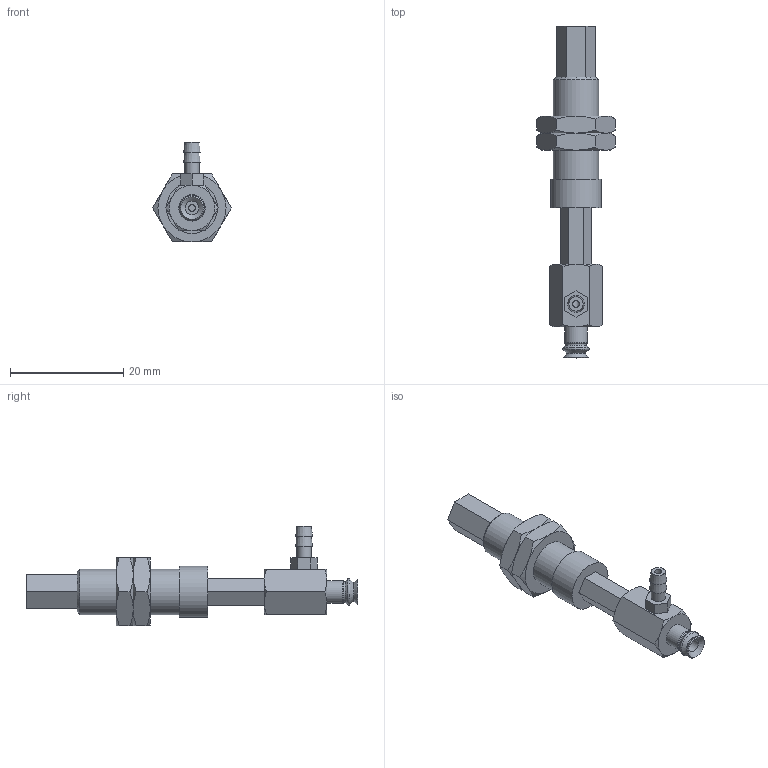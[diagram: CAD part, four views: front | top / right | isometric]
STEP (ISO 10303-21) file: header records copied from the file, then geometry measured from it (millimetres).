
FILE_DESCRIPTION(('STEP AP203'),'1');
FILE_NAME('-T.stp','2025-04-24T05:10:01',(' '),(' '),'Spatial InterOp 3D',' ',' ');
FILE_SCHEMA(('CONFIG_CONTROL_DESIGN'));
Length unit declared in the file: millimetre
Products named in the file (7): BNABPJYH-4-10-※-T; CONNECTOR-H-2A-10; Nut-2A-10-h; NAPFTH-2A-10-FBODY; NAPFTH-2A-10-MBODY; BPJG-4-※; T (2)
Assembly tree (7 placements, depth 2):
  BNABPJYH-4-10-※-T
    CONNECTOR-H-2A-10
    Nut-2A-10-h  x2
    NAPFTH-2A-10-FBODY
    NAPFTH-2A-10-MBODY
    BPJG-4-※
    T (2)
Bounding box: 13.86 x 58.5 x 17.6 mm (x, y, z)
Volume: 2837.2 mm3; surface area: 3512 mm2
Topology: 7 solids, 7 shells, 158 faces, 343 edges, 210 vertices
Faces by surface type: plane 75, cone 57, cylinder 17, torus 9
Full cylindrical faces by diameter (mm): 1.2 x2, 2 x2, 2.4 x1, 2.459 x2, 2.5 x1, 3 x4, 4 x1, 7.188 x2, 8 x1, 9 x1
Entity records: 3962 total; most frequent: CARTESIAN_POINT 901, DIRECTION 560, ORIENTED_EDGE 486, EDGE_CURVE 243, AXIS2_PLACEMENT_3D 228, EDGE_LOOP 200, VERTEX_POINT 173, FACE_OUTER_BOUND 160
